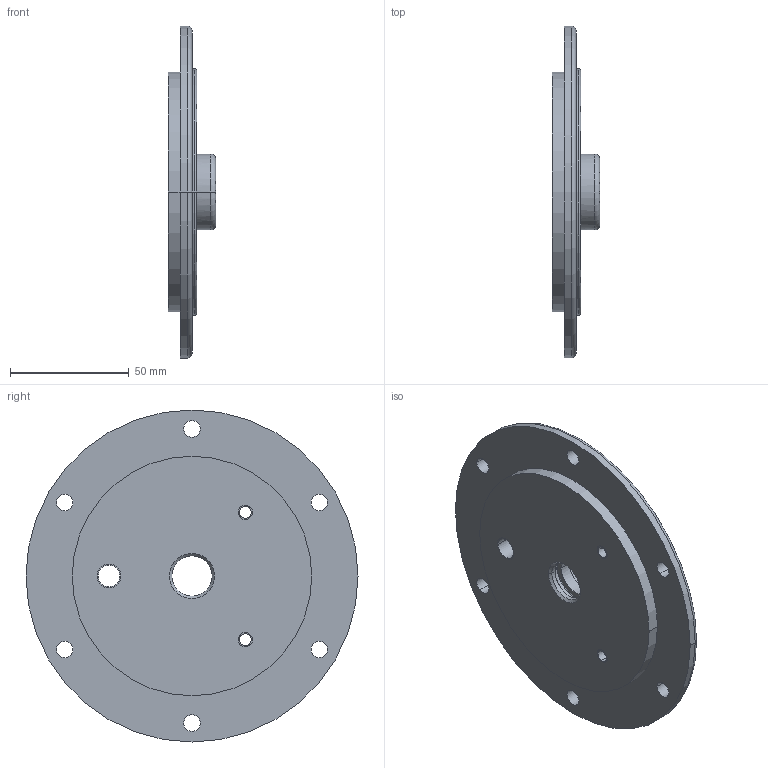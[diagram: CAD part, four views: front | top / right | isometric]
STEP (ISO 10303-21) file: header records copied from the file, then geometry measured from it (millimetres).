
FILE_DESCRIPTION((''),'2;1');
FILE_NAME('DECKEL','2022-08-12T16:34:16',('H041970'),(''),'CREO PARAMETRIC BY PTC INC, 2021284','CREO PARAMETRIC BY PTC INC, 2021284','');
FILE_SCHEMA(('CONFIG_CONTROL_DESIGN'));
Length unit declared in the file: millimetre
Products named in the file (1): DECKEL
Bounding box: 20 x 140 x 140 mm (x, y, z)
Volume: 97328.7 mm3; surface area: 40150.6 mm2
Topology: 1 solids, 4 shells, 218 faces, 482 edges, 276 vertices
Faces by surface type: cylinder 76, torus 50, bspline 40, plane 28, sphere 16, cone 8
Entity records: 9802 total; most frequent: CARTESIAN_POINT 5021, DIRECTION 1062, ORIENTED_EDGE 952, EDGE_CURVE 482, AXIS2_PLACEMENT_3D 481, CIRCLE 302, VERTEX_POINT 276, EDGE_LOOP 248
